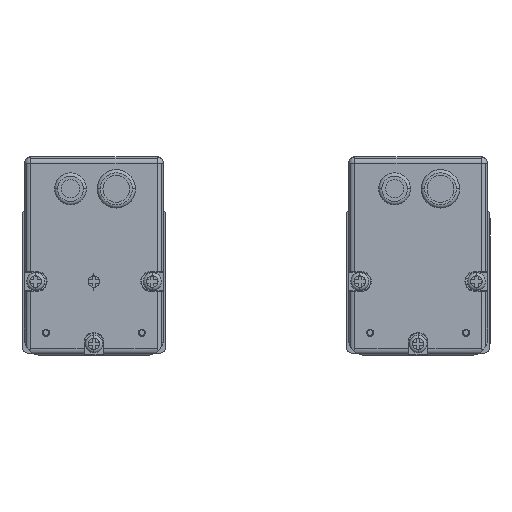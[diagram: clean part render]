
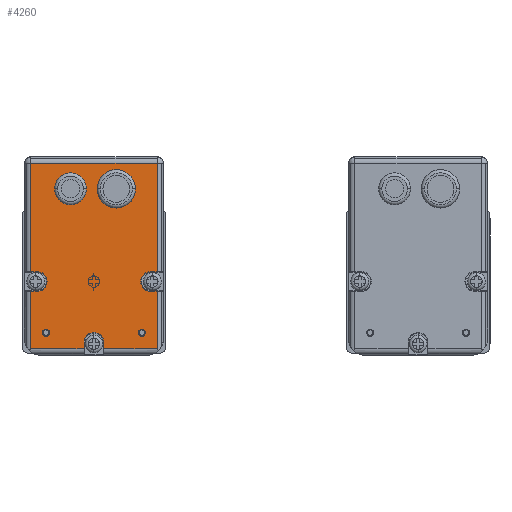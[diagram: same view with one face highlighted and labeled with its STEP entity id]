
A CAD part, left-side view. The second image highlights one B-rep face of the part: STEP entity #4260.
In plain terms, the highlighted planar face has unit normal (-1, 0, 0).
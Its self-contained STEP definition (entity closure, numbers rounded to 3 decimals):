
#4260=ADVANCED_FACE('',(#8361,#8362,#8363),#8364,.F.);
#8361=FACE_OUTER_BOUND('',#21853,.T.);
#8362=FACE_BOUND('',#21854,.T.);
#8363=FACE_BOUND('',#21855,.T.);
#8364=PLANE('',#21856);
#21853=EDGE_LOOP('',(#33408,#33409,#33410,#33411,#33412,#33413,#33414,#33415,#33416,#33417,#33418,#33419,#33420,#33421,#33422,#33423,#33424));
#21854=EDGE_LOOP('',(#33425,#33426));
#21855=EDGE_LOOP('',(#33427,#33428));
#21856=AXIS2_PLACEMENT_3D('',#33429,#33430,#33431);
#33408=ORIENTED_EDGE('',*,*,#35958,.F.);
#33409=ORIENTED_EDGE('',*,*,#37439,.F.);
#33410=ORIENTED_EDGE('',*,*,#38886,.F.);
#33411=ORIENTED_EDGE('',*,*,#38887,.F.);
#33412=ORIENTED_EDGE('',*,*,#35398,.F.);
#33413=ORIENTED_EDGE('',*,*,#38888,.F.);
#33414=ORIENTED_EDGE('',*,*,#36243,.F.);
#33415=ORIENTED_EDGE('',*,*,#37828,.F.);
#33416=ORIENTED_EDGE('',*,*,#38889,.F.);
#33417=ORIENTED_EDGE('',*,*,#36264,.F.);
#33418=ORIENTED_EDGE('',*,*,#38870,.F.);
#33419=ORIENTED_EDGE('',*,*,#38815,.F.);
#33420=ORIENTED_EDGE('',*,*,#36818,.F.);
#33421=ORIENTED_EDGE('',*,*,#34794,.F.);
#33422=ORIENTED_EDGE('',*,*,#35921,.F.);
#33423=ORIENTED_EDGE('',*,*,#37073,.F.);
#33424=ORIENTED_EDGE('',*,*,#35862,.F.);
#33425=ORIENTED_EDGE('',*,*,#36337,.F.);
#33426=ORIENTED_EDGE('',*,*,#34277,.F.);
#33427=ORIENTED_EDGE('',*,*,#38145,.F.);
#33428=ORIENTED_EDGE('',*,*,#36493,.F.);
#33429=CARTESIAN_POINT('',(61.25,103.798,67.78));
#33430=DIRECTION('',(1.0,0.0,0.0));
#33431=DIRECTION('',(0.0,0.0,-1.0));
#34277=EDGE_CURVE('',#39017,#39019,#39020,.T.);
#34794=EDGE_CURVE('',#39940,#39942,#39943,.T.);
#35398=EDGE_CURVE('',#40987,#40990,#40991,.T.);
#35862=EDGE_CURVE('',#41758,#41760,#41761,.T.);
#35921=EDGE_CURVE('',#41850,#39940,#41852,.T.);
#35958=EDGE_CURVE('',#41905,#41758,#41907,.T.);
#36243=EDGE_CURVE('',#41739,#42353,#42354,.T.);
#36264=EDGE_CURVE('',#42381,#42383,#42384,.T.);
#36337=EDGE_CURVE('',#39019,#39017,#42492,.T.);
#36493=EDGE_CURVE('',#42716,#42718,#42719,.T.);
#36818=EDGE_CURVE('',#39942,#43200,#43201,.T.);
#37073=EDGE_CURVE('',#41760,#41850,#43557,.T.);
#37439=EDGE_CURVE('',#44066,#41905,#44068,.T.);
#37828=EDGE_CURVE('',#44571,#41739,#44573,.T.);
#38145=EDGE_CURVE('',#42718,#42716,#44967,.T.);
#38815=EDGE_CURVE('',#43200,#45708,#45709,.T.);
#38870=EDGE_CURVE('',#45708,#42381,#45764,.T.);
#38886=EDGE_CURVE('',#44912,#44066,#45780,.T.);
#38887=EDGE_CURVE('',#40990,#44912,#45781,.T.);
#38888=EDGE_CURVE('',#42353,#40987,#45782,.T.);
#38889=EDGE_CURVE('',#42383,#44571,#45783,.T.);
#39017=VERTEX_POINT('',#45915);
#39019=VERTEX_POINT('',#45917);
#39020=CIRCLE('',#45918,1.1);
#39940=VERTEX_POINT('',#50682);
#39942=VERTEX_POINT('',#50684);
#39943=LINE('',#50685,#50686);
#40987=VERTEX_POINT('',#86109);
#40990=VERTEX_POINT('',#86112);
#40991=CIRCLE('',#86113,3.1);
#41739=VERTEX_POINT('',#89141);
#41758=VERTEX_POINT('',#89162);
#41760=VERTEX_POINT('',#89164);
#41761=CIRCLE('',#89165,3.1);
#41850=VERTEX_POINT('',#89759);
#41852=LINE('',#89761,#89762);
#41905=VERTEX_POINT('',#89827);
#41907=LINE('',#89829,#89830);
#42353=VERTEX_POINT('',#91464);
#42354=LINE('',#91465,#91466);
#42381=VERTEX_POINT('',#91519);
#42383=VERTEX_POINT('',#91521);
#42384=LINE('',#91522,#91523);
#42492=CIRCLE('',#93178,1.1);
#42716=VERTEX_POINT('',#93546);
#42718=VERTEX_POINT('',#93548);
#42719=CIRCLE('',#93549,1.1);
#43200=VERTEX_POINT('',#95747);
#43201=LINE('',#95748,#95749);
#43557=LINE('',#97689,#97690);
#44066=VERTEX_POINT('',#110760);
#44068=LINE('',#110762,#110763);
#44571=VERTEX_POINT('',#119321);
#44573=LINE('',#119323,#119324);
#44912=VERTEX_POINT('',#119795);
#44967=CIRCLE('',#119870,1.1);
#45708=VERTEX_POINT('',#120843);
#45709=LINE('',#120844,#120845);
#45764=CIRCLE('',#120916,3.1);
#45780=LINE('',#120933,#120934);
#45781=LINE('',#120935,#120936);
#45782=CIRCLE('',#120937,3.1);
#45783=LINE('',#120938,#120939);
#45915=CARTESIAN_POINT('',(61.25,88.798,42.68));
#45917=CARTESIAN_POINT('',(61.25,88.798,44.88));
#45918=AXIS2_PLACEMENT_3D('',#121069,#121070,#121071);
#50682=CARTESIAN_POINT('',(61.25,123.548,96.78));
#50684=CARTESIAN_POINT('',(61.25,84.048,96.78));
#50685=CARTESIAN_POINT('',(61.25,103.798,96.78));
#50686=VECTOR('',#121829,1.0);
#86109=CARTESIAN_POINT('',(61.25,103.798,43.88));
#86112=CARTESIAN_POINT('',(61.25,106.898,40.78));
#86113=AXIS2_PLACEMENT_3D('',#122614,#122615,#122616);
#89141=CARTESIAN_POINT('',(61.25,100.698,38.78));
#89162=CARTESIAN_POINT('',(61.25,121.548,56.68));
#89164=CARTESIAN_POINT('',(61.25,121.548,62.88));
#89165=AXIS2_PLACEMENT_3D('',#123331,#123332,#123333);
#89759=CARTESIAN_POINT('',(61.25,123.548,62.88));
#89761=CARTESIAN_POINT('',(61.25,123.548,67.78));
#89762=VECTOR('',#123428,1.0);
#89827=CARTESIAN_POINT('',(61.25,123.548,56.68));
#89829=CARTESIAN_POINT('',(61.25,112.923,56.68));
#89830=VECTOR('',#123486,1.0);
#91464=CARTESIAN_POINT('',(61.25,100.698,40.78));
#91465=CARTESIAN_POINT('',(61.25,100.698,54.03));
#91466=VECTOR('',#123867,1.0);
#91519=CARTESIAN_POINT('',(61.25,86.048,56.68));
#91521=CARTESIAN_POINT('',(61.25,84.048,56.68));
#91522=CARTESIAN_POINT('',(61.25,94.673,56.68));
#91523=VECTOR('',#123901,1.0);
#93178=AXIS2_PLACEMENT_3D('',#123986,#123987,#123988);
#93546=CARTESIAN_POINT('',(61.25,118.798,42.68));
#93548=CARTESIAN_POINT('',(61.25,118.798,44.88));
#93549=AXIS2_PLACEMENT_3D('',#124190,#124191,#124192);
#95747=CARTESIAN_POINT('',(61.25,84.048,62.88));
#95748=CARTESIAN_POINT('',(61.25,84.048,67.78));
#95749=VECTOR('',#124669,1.0);
#97689=CARTESIAN_POINT('',(61.25,112.923,62.88));
#97690=VECTOR('',#125034,1.0);
#110760=CARTESIAN_POINT('',(61.25,123.548,38.78));
#110762=CARTESIAN_POINT('',(61.25,123.548,67.78));
#110763=VECTOR('',#125503,1.0);
#119321=CARTESIAN_POINT('',(61.25,84.048,38.78));
#119323=CARTESIAN_POINT('',(61.25,103.798,38.78));
#119324=VECTOR('',#126037,1.0);
#119795=CARTESIAN_POINT('',(61.25,106.898,38.78));
#119870=AXIS2_PLACEMENT_3D('',#126453,#126454,#126455);
#120843=CARTESIAN_POINT('',(61.25,86.048,62.88));
#120844=CARTESIAN_POINT('',(61.25,94.673,62.88));
#120845=VECTOR('',#127128,1.0);
#120916=AXIS2_PLACEMENT_3D('',#127163,#127164,#127165);
#120933=CARTESIAN_POINT('',(61.25,103.798,38.78));
#120934=VECTOR('',#127179,1.0);
#120935=CARTESIAN_POINT('',(61.25,106.898,54.03));
#120936=VECTOR('',#127180,1.0);
#120937=AXIS2_PLACEMENT_3D('',#127181,#127182,#127183);
#120938=CARTESIAN_POINT('',(61.25,84.048,67.78));
#120939=VECTOR('',#127184,1.0);
#121069=CARTESIAN_POINT('',(61.25,88.798,43.78));
#121070=DIRECTION('',(-1.0,0.0,0.0));
#121071=DIRECTION('',(0.0,0.0,-1.0));
#121829=DIRECTION('',(0.0,-1.0,0.0));
#122614=CARTESIAN_POINT('',(61.25,103.798,40.78));
#122615=DIRECTION('',(-1.0,0.0,0.0));
#122616=DIRECTION('',(0.0,0.0,1.0));
#123331=CARTESIAN_POINT('',(61.25,121.548,59.78));
#123332=DIRECTION('',(-1.0,-0.0,0.0));
#123333=DIRECTION('',(0.0,-1.0,0.));
#123428=DIRECTION('',(0.0,0.0,1.0));
#123486=DIRECTION('',(0.0,-1.0,0.0));
#123867=DIRECTION('',(0.0,0.0,1.0));
#123901=DIRECTION('',(0.0,-1.0,0.0));
#123986=CARTESIAN_POINT('',(61.25,88.798,43.78));
#123987=DIRECTION('',(-1.0,0.0,0.0));
#123988=DIRECTION('',(0.0,0.0,-1.0));
#124190=CARTESIAN_POINT('',(61.25,118.798,43.78));
#124191=DIRECTION('',(-1.0,0.0,0.0));
#124192=DIRECTION('',(0.0,0.0,-1.0));
#124669=DIRECTION('',(0.0,0.0,-1.0));
#125034=DIRECTION('',(0.0,1.0,0.0));
#125503=DIRECTION('',(0.0,0.0,1.0));
#126037=DIRECTION('',(0.0,1.0,0.0));
#126453=CARTESIAN_POINT('',(61.25,118.798,43.78));
#126454=DIRECTION('',(-1.0,0.0,0.0));
#126455=DIRECTION('',(0.0,0.0,-1.0));
#127128=DIRECTION('',(0.0,1.0,0.0));
#127163=CARTESIAN_POINT('',(61.25,86.048,59.78));
#127164=DIRECTION('',(-1.0,0.0,0.0));
#127165=DIRECTION('',(0.0,1.0,0.));
#127179=DIRECTION('',(0.0,1.0,0.0));
#127180=DIRECTION('',(0.0,0.0,-1.0));
#127181=CARTESIAN_POINT('',(61.25,103.798,40.78));
#127182=DIRECTION('',(-1.0,0.0,0.0));
#127183=DIRECTION('',(0.0,0.0,1.0));
#127184=DIRECTION('',(0.0,0.0,-1.0));
